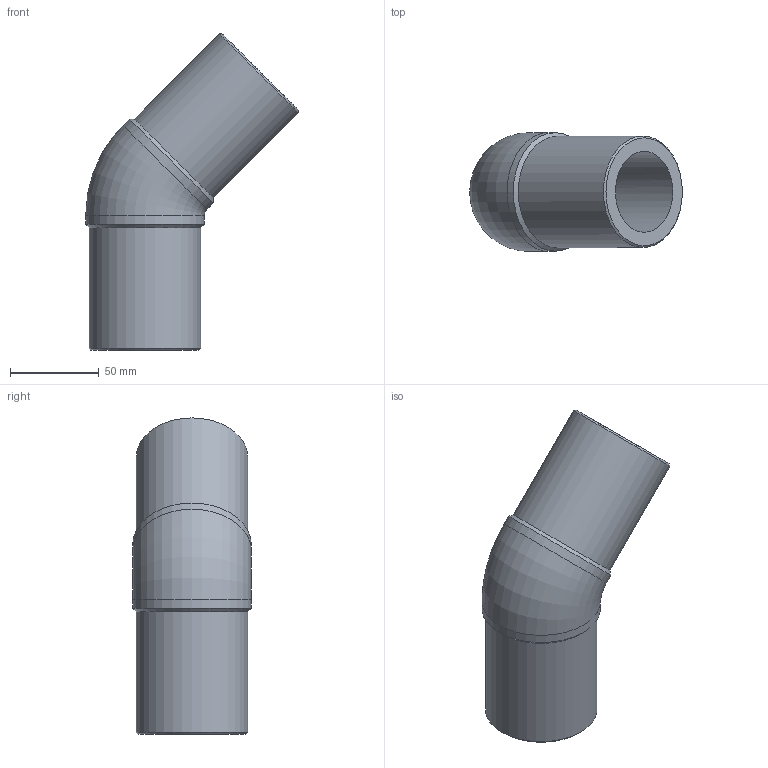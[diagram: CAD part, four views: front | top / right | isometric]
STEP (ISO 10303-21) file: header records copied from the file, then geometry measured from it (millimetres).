
FILE_DESCRIPTION(/* description */ ('Unknown'),/* implementation_level */ '2;1');
FILE_NAME(/* name */ 'G4P063H',/* time_stamp */ '2022-01-17T09:20:19+01:00',/* author */ ('Unknown'),/* organization */ ('Unknown'),/* preprocessor_version */ 'ST-DEVELOPER v18.1',/* originating_system */ 'Solid Edge',/* authorisation */ 'Unknown');
FILE_SCHEMA (('AUTOMOTIVE_DESIGN {1 0 10303 214 3 1 1}'));
Length unit declared in the file: millimetre
Products named in the file (1): G4P063H
Bounding box: 120.12 x 67 x 178.62 mm (x, y, z)
Volume: 285525.4 mm3; surface area: 65909.7 mm2
Topology: 1 solids, 1 shells, 14 faces, 34 edges, 22 vertices
Faces by surface type: cylinder 6, cone 4, plane 2, torus 2
Full cylindrical faces by diameter (mm): 45.8 x2, 63 x2, 67 x2
Entity records: 364 total; most frequent: CARTESIAN_POINT 64, DIRECTION 60, ORIENTED_EDGE 38, AXIS2_PLACEMENT_3D 30, EDGE_LOOP 27, FACE_BOUND 27, EDGE_CURVE 19, VERTEX_POINT 18
